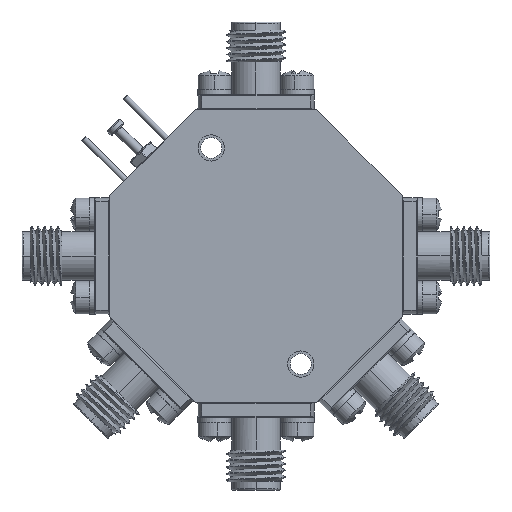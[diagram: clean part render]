
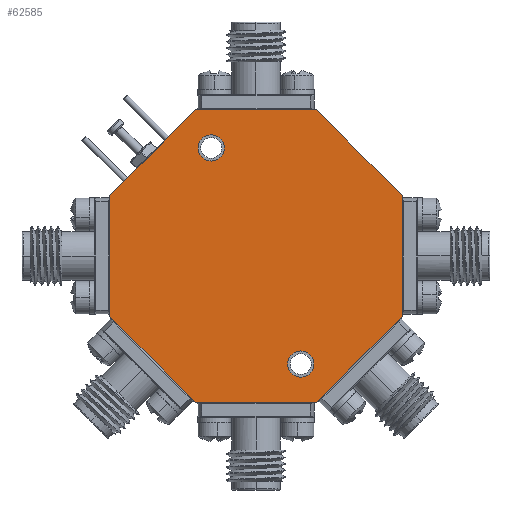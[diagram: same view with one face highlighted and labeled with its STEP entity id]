
A CAD part, front view. The second image highlights one B-rep face of the part: STEP entity #62585.
In plain terms, the highlighted planar face has unit normal (0, -1, 0).
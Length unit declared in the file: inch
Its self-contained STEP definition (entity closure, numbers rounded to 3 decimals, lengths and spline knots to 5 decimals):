
#268 = ORIENTED_EDGE ( 'NONE', *, *, #16110, .F. ) ;
#1335 = DIRECTION ( 'NONE',  ( 0., -1., 0. ) ) ;
#1350 = PLANE ( 'NONE',  #28582 ) ;
#2230 = CARTESIAN_POINT ( 'NONE',  ( -0.1997, -0.20332, -0.59875 ) ) ;
#2721 = ORIENTED_EDGE ( 'NONE', *, *, #41479, .F. ) ;
#3364 = ORIENTED_EDGE ( 'NONE', *, *, #13134, .F. ) ;
#5875 = CARTESIAN_POINT ( 'NONE',  ( -0.1997, -0.20332, -0.59875 ) ) ;
#5943 = LINE ( 'NONE', #54722, #43201 ) ;
#6143 = CIRCLE ( 'NONE', #61496, 0.056 ) ;
#6274 = DIRECTION ( 'NONE',  ( 0., 0., -1. ) ) ;
#6310 = LINE ( 'NONE', #49608, #63294 ) ;
#6769 = CARTESIAN_POINT ( 'NONE',  ( -1.01605, -0.20332, 0.12208 ) ) ;
#7362 = VECTOR ( 'NONE', #6274, 39.37008 ) ;
#7414 = DIRECTION ( 'NONE',  ( -1., 0., 0. ) ) ;
#7785 = ORIENTED_EDGE ( 'NONE', *, *, #32367, .F. ) ;
#8249 = VECTOR ( 'NONE', #58107, 39.37008 ) ;
#8990 = CARTESIAN_POINT ( 'NONE',  ( 0.23395, -0.20332, -0.39569 ) ) ;
#9095 = CARTESIAN_POINT ( 'NONE',  ( -0.13216, -0.20332, -0.76181 ) ) ;
#9196 = CARTESIAN_POINT ( 'NONE',  ( -0.64993, -0.20332, 0.48819 ) ) ;
#9893 = ORIENTED_EDGE ( 'NONE', *, *, #34841, .F. ) ;
#10121 = VERTEX_POINT ( 'NONE', #55056 ) ;
#10428 = VERTEX_POINT ( 'NONE', #44702 ) ;
#12836 = EDGE_LOOP ( 'NONE', ( #3364, #60505 ) ) ;
#13107 = CIRCLE ( 'NONE', #48991, 0.056 ) ;
#13134 = EDGE_CURVE ( 'NONE', #14728, #10121, #54458, .T. ) ;
#13818 = ORIENTED_EDGE ( 'NONE', *, *, #33584, .F. ) ;
#14728 = VERTEX_POINT ( 'NONE', #49978 ) ;
#15094 = CARTESIAN_POINT ( 'NONE',  ( -0.58239, -0.20332, 0.32513 ) ) ;
#16110 = EDGE_CURVE ( 'NONE', #45458, #54537, #35445, .T. ) ;
#18316 = CARTESIAN_POINT ( 'NONE',  ( -0.64993, -0.20332, -0.76181 ) ) ;
#18454 = CARTESIAN_POINT ( 'NONE',  ( -0.58239, -0.20332, 0.32513 ) ) ;
#18943 = LINE ( 'NONE', #8990, #8249 ) ;
#20748 = EDGE_CURVE ( 'NONE', #63220, #31483, #54119, .T. ) ;
#21373 = DIRECTION ( 'NONE',  ( -0.707, 0., 0.707 ) ) ;
#21891 = VERTEX_POINT ( 'NONE', #46735 ) ;
#22629 = EDGE_CURVE ( 'NONE', #54537, #45458, #13107, .T. ) ;
#23143 = CARTESIAN_POINT ( 'NONE',  ( -0.13216, -0.20332, -0.76181 ) ) ;
#23645 = DIRECTION ( 'NONE',  ( 0., 0., -1. ) ) ;
#24463 = DIRECTION ( 'NONE',  ( 0.707, 0., -0.707 ) ) ;
#25280 = DIRECTION ( 'NONE',  ( 1., 0., 0. ) ) ;
#25607 = ORIENTED_EDGE ( 'NONE', *, *, #41475, .F. ) ;
#25812 = FACE_BOUND ( 'NONE', #12836, .T. ) ;
#26375 = DIRECTION ( 'NONE',  ( 0.707, 0., 0.707 ) ) ;
#26782 = VERTEX_POINT ( 'NONE', #18316 ) ;
#27550 = EDGE_LOOP ( 'NONE', ( #28179, #268 ) ) ;
#27632 = LINE ( 'NONE', #23143, #44980 ) ;
#28179 = ORIENTED_EDGE ( 'NONE', *, *, #22629, .F. ) ;
#28397 = DIRECTION ( 'NONE',  ( 0., 0., -1. ) ) ;
#28556 = CARTESIAN_POINT ( 'NONE',  ( -0.64993, -0.20332, 0.48819 ) ) ;
#28582 = AXIS2_PLACEMENT_3D ( 'NONE', #59490, #49829, #45334 ) ;
#29703 = CARTESIAN_POINT ( 'NONE',  ( -1.01605, -0.20332, 0.12208 ) ) ;
#30595 = DIRECTION ( 'NONE',  ( 0., 0., -1. ) ) ;
#30609 = FACE_OUTER_BOUND ( 'NONE', #54232, .T. ) ;
#31483 = VERTEX_POINT ( 'NONE', #63277 ) ;
#32367 = EDGE_CURVE ( 'NONE', #51427, #63220, #40143, .T. ) ;
#33584 = EDGE_CURVE ( 'NONE', #47645, #26782, #27632, .T. ) ;
#34841 = EDGE_CURVE ( 'NONE', #46241, #47645, #18943, .T. ) ;
#35445 = CIRCLE ( 'NONE', #61072, 0.056 ) ;
#36052 = FACE_BOUND ( 'NONE', #27550, .T. ) ;
#39095 = AXIS2_PLACEMENT_3D ( 'NONE', #15094, #62733, #28397 ) ;
#40143 = LINE ( 'NONE', #6769, #51023 ) ;
#41475 = EDGE_CURVE ( 'NONE', #10428, #46241, #50209, .T. ) ;
#41479 = EDGE_CURVE ( 'NONE', #21891, #51427, #5943, .T. ) ;
#41985 = VECTOR ( 'NONE', #24463, 39.37008 ) ;
#43201 = VECTOR ( 'NONE', #60506, 39.37008 ) ;
#44398 = VECTOR ( 'NONE', #25280, 39.37008 ) ;
#44702 = CARTESIAN_POINT ( 'NONE',  ( 0.23395, -0.20332, 0.12208 ) ) ;
#44980 = VECTOR ( 'NONE', #7414, 39.37008 ) ;
#45334 = DIRECTION ( 'NONE',  ( 0., 0., 1. ) ) ;
#45388 = CARTESIAN_POINT ( 'NONE',  ( 0.23395, -0.20332, 0.12208 ) ) ;
#45458 = VERTEX_POINT ( 'NONE', #48962 ) ;
#46241 = VERTEX_POINT ( 'NONE', #62512 ) ;
#46735 = CARTESIAN_POINT ( 'NONE',  ( -1.01605, -0.20332, -0.39569 ) ) ;
#47645 = VERTEX_POINT ( 'NONE', #9095 ) ;
#48962 = CARTESIAN_POINT ( 'NONE',  ( -0.1997, -0.20332, -0.54275 ) ) ;
#48991 = AXIS2_PLACEMENT_3D ( 'NONE', #5875, #1335, #30595 ) ;
#49608 = CARTESIAN_POINT ( 'NONE',  ( -0.64993, -0.20332, -0.76181 ) ) ;
#49829 = DIRECTION ( 'NONE',  ( 0., 1., 0. ) ) ;
#49978 = CARTESIAN_POINT ( 'NONE',  ( -0.58239, -0.20332, 0.26913 ) ) ;
#50209 = LINE ( 'NONE', #45388, #7362 ) ;
#50997 = DIRECTION ( 'NONE',  ( 0., -1., 0. ) ) ;
#51023 = VECTOR ( 'NONE', #26375, 39.37008 ) ;
#51427 = VERTEX_POINT ( 'NONE', #29703 ) ;
#52460 = DIRECTION ( 'NONE',  ( 0., -1., 0. ) ) ;
#53424 = CARTESIAN_POINT ( 'NONE',  ( -0.1997, -0.20332, -0.65475 ) ) ;
#53921 = CARTESIAN_POINT ( 'NONE',  ( -0.13216, -0.20332, 0.48819 ) ) ;
#53981 = EDGE_CURVE ( 'NONE', #31483, #10428, #54576, .T. ) ;
#54119 = LINE ( 'NONE', #9196, #44398 ) ;
#54232 = EDGE_LOOP ( 'NONE', ( #57936, #57354, #7785, #2721, #60245, #13818, #9893, #25607 ) ) ;
#54458 = CIRCLE ( 'NONE', #39095, 0.056 ) ;
#54473 = EDGE_CURVE ( 'NONE', #10121, #14728, #6143, .T. ) ;
#54537 = VERTEX_POINT ( 'NONE', #53424 ) ;
#54576 = LINE ( 'NONE', #53921, #41985 ) ;
#54722 = CARTESIAN_POINT ( 'NONE',  ( -1.01605, -0.20332, -0.39569 ) ) ;
#55056 = CARTESIAN_POINT ( 'NONE',  ( -0.58239, -0.20332, 0.38113 ) ) ;
#57354 = ORIENTED_EDGE ( 'NONE', *, *, #20748, .F. ) ;
#57936 = ORIENTED_EDGE ( 'NONE', *, *, #53981, .F. ) ;
#58107 = DIRECTION ( 'NONE',  ( -0.707, 0., -0.707 ) ) ;
#59490 = CARTESIAN_POINT ( 'NONE',  ( -0.39105, -0.20332, -0.13681 ) ) ;
#60023 = DIRECTION ( 'NONE',  ( 0., 0., -1. ) ) ;
#60245 = ORIENTED_EDGE ( 'NONE', *, *, #62186, .F. ) ;
#60505 = ORIENTED_EDGE ( 'NONE', *, *, #54473, .F. ) ;
#60506 = DIRECTION ( 'NONE',  ( 0., 0., 1. ) ) ;
#61072 = AXIS2_PLACEMENT_3D ( 'NONE', #2230, #50997, #60023 ) ;
#61496 = AXIS2_PLACEMENT_3D ( 'NONE', #18454, #52460, #23645 ) ;
#62186 = EDGE_CURVE ( 'NONE', #26782, #21891, #6310, .T. ) ;
#62512 = CARTESIAN_POINT ( 'NONE',  ( 0.23395, -0.20332, -0.39569 ) ) ;
#62585 = ADVANCED_FACE ( 'NONE', ( #36052, #25812, #30609 ), #1350, .F. ) ;
#62733 = DIRECTION ( 'NONE',  ( 0., -1., 0. ) ) ;
#63220 = VERTEX_POINT ( 'NONE', #28556 ) ;
#63277 = CARTESIAN_POINT ( 'NONE',  ( -0.13216, -0.20332, 0.48819 ) ) ;
#63294 = VECTOR ( 'NONE', #21373, 39.37008 ) ;
